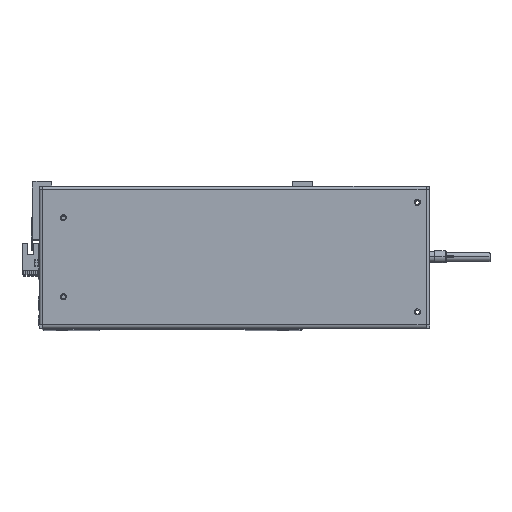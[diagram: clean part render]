
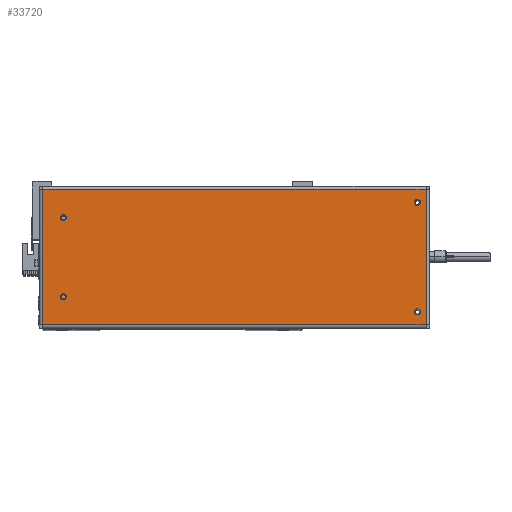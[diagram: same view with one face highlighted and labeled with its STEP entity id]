
A CAD part, top view. The second image highlights one B-rep face of the part: STEP entity #33720.
In plain terms, the highlighted planar face has unit normal (0, 0, 1).
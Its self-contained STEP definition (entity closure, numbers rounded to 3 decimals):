
#45 = ORIENTED_EDGE ( 'NONE', *, *, #15626, .F. ) ;
#90 = CIRCLE ( 'NONE', #18276, 2.5 ) ;
#709 = LINE ( 'NONE', #8612, #30052 ) ;
#1091 = VERTEX_POINT ( 'NONE', #19613 ) ;
#1104 = DIRECTION ( 'NONE',  ( 1., 0., 0. ) ) ;
#1234 = PLANE ( 'NONE',  #14177 ) ;
#1342 = VERTEX_POINT ( 'NONE', #16457 ) ;
#1801 = DIRECTION ( 'NONE',  ( 0., 0., 1. ) ) ;
#2739 = EDGE_CURVE ( 'NONE', #33593, #29856, #10205, .T. ) ;
#2970 = DIRECTION ( 'NONE',  ( 1., 0., 0. ) ) ;
#3071 = ORIENTED_EDGE ( 'NONE', *, *, #2739, .F. ) ;
#3098 = CARTESIAN_POINT ( 'NONE',  ( -140.5, 32.5, 0. ) ) ;
#3504 = CARTESIAN_POINT ( 'NONE',  ( 150.5, -45., 0. ) ) ;
#3922 = CARTESIAN_POINT ( 'NONE',  ( -138., 32.5, 0. ) ) ;
#4596 = DIRECTION ( 'NONE',  ( 1., 0., 0. ) ) ;
#4606 = ORIENTED_EDGE ( 'NONE', *, *, #12159, .F. ) ;
#4715 = EDGE_CURVE ( 'NONE', #36137, #30108, #33577, .T. ) ;
#6249 = CARTESIAN_POINT ( 'NONE',  ( 153., -45., 0. ) ) ;
#6568 = CIRCLE ( 'NONE', #8094, 2.5 ) ;
#6971 = CIRCLE ( 'NONE', #24839, 2.5 ) ;
#7051 = ORIENTED_EDGE ( 'NONE', *, *, #28737, .F. ) ;
#7952 = FACE_OUTER_BOUND ( 'NONE', #36775, .T. ) ;
#8073 = DIRECTION ( 'NONE',  ( 0., -1., 0. ) ) ;
#8078 = CIRCLE ( 'NONE', #26996, 2.5 ) ;
#8094 = AXIS2_PLACEMENT_3D ( 'NONE', #32176, #26558, #14877 ) ;
#8612 = CARTESIAN_POINT ( 'NONE',  ( 157.7, 55.6, 0. ) ) ;
#8913 = FACE_BOUND ( 'NONE', #25435, .T. ) ;
#9529 = EDGE_CURVE ( 'NONE', #20323, #17191, #709, .T. ) ;
#9746 = CARTESIAN_POINT ( 'NONE',  ( -157.7, -55.6, 0. ) ) ;
#9837 = DIRECTION ( 'NONE',  ( -1., 0., 0. ) ) ;
#10115 = VERTEX_POINT ( 'NONE', #6249 ) ;
#10205 = CIRCLE ( 'NONE', #36804, 2.5 ) ;
#10540 = CIRCLE ( 'NONE', #23793, 2.5 ) ;
#11160 = CIRCLE ( 'NONE', #33468, 2.5 ) ;
#12159 = EDGE_CURVE ( 'NONE', #27642, #19390, #10540, .T. ) ;
#12403 = DIRECTION ( 'NONE',  ( 0., 0., 1. ) ) ;
#13592 = EDGE_CURVE ( 'NONE', #10115, #1091, #8078, .T. ) ;
#13702 = ORIENTED_EDGE ( 'NONE', *, *, #28142, .F. ) ;
#14177 = AXIS2_PLACEMENT_3D ( 'NONE', #18353, #21780, #9837 ) ;
#14623 = ORIENTED_EDGE ( 'NONE', *, *, #4715, .T. ) ;
#14853 = CARTESIAN_POINT ( 'NONE',  ( 153., 45., 0. ) ) ;
#14877 = DIRECTION ( 'NONE',  ( 1., 0., 0. ) ) ;
#15626 = EDGE_CURVE ( 'NONE', #24426, #1342, #6568, .T. ) ;
#15682 = DIRECTION ( 'NONE',  ( 1., 0., 0. ) ) ;
#15814 = FACE_BOUND ( 'NONE', #21845, .T. ) ;
#15937 = DIRECTION ( 'NONE',  ( -1., 0., 0. ) ) ;
#15969 = DIRECTION ( 'NONE',  ( 0., 1., 0. ) ) ;
#16309 = EDGE_LOOP ( 'NONE', ( #17290, #30277 ) ) ;
#16457 = CARTESIAN_POINT ( 'NONE',  ( -143., -32.5, 0. ) ) ;
#16627 = EDGE_CURVE ( 'NONE', #1091, #10115, #90, .T. ) ;
#16736 = VECTOR ( 'NONE', #15969, 1000. ) ;
#17191 = VERTEX_POINT ( 'NONE', #25181 ) ;
#17290 = ORIENTED_EDGE ( 'NONE', *, *, #13592, .F. ) ;
#17673 = FACE_BOUND ( 'NONE', #16309, .T. ) ;
#18276 = AXIS2_PLACEMENT_3D ( 'NONE', #26419, #20540, #26285 ) ;
#18353 = CARTESIAN_POINT ( 'NONE',  ( 157.7, 58.5, 0. ) ) ;
#18460 = CARTESIAN_POINT ( 'NONE',  ( -140.5, -32.5, 0. ) ) ;
#19390 = VERTEX_POINT ( 'NONE', #3922 ) ;
#19515 = CARTESIAN_POINT ( 'NONE',  ( -157.6, 55.6, 0. ) ) ;
#19613 = CARTESIAN_POINT ( 'NONE',  ( 148., -45., 0. ) ) ;
#19696 = DIRECTION ( 'NONE',  ( 1., 0., 0. ) ) ;
#20060 = DIRECTION ( 'NONE',  ( 1., 0., 0. ) ) ;
#20323 = VERTEX_POINT ( 'NONE', #37153 ) ;
#20458 = CARTESIAN_POINT ( 'NONE',  ( 157.6, -55.6, 0. ) ) ;
#20540 = DIRECTION ( 'NONE',  ( 0., 0., 1. ) ) ;
#20567 = DIRECTION ( 'NONE',  ( 0., 0., 1. ) ) ;
#20688 = VECTOR ( 'NONE', #8073, 1000. ) ;
#20857 = LINE ( 'NONE', #33269, #16736 ) ;
#20998 = ORIENTED_EDGE ( 'NONE', *, *, #27416, .F. ) ;
#21780 = DIRECTION ( 'NONE',  ( 0., 0., -1. ) ) ;
#21845 = EDGE_LOOP ( 'NONE', ( #3071, #20998 ) ) ;
#22718 = CARTESIAN_POINT ( 'NONE',  ( 150.5, 45., 0. ) ) ;
#23793 = AXIS2_PLACEMENT_3D ( 'NONE', #3098, #20567, #2970 ) ;
#24044 = DIRECTION ( 'NONE',  ( 0., 0., 1. ) ) ;
#24426 = VERTEX_POINT ( 'NONE', #25959 ) ;
#24540 = ORIENTED_EDGE ( 'NONE', *, *, #9529, .T. ) ;
#24727 = EDGE_CURVE ( 'NONE', #17191, #36137, #32132, .T. ) ;
#24817 = VECTOR ( 'NONE', #15682, 1000. ) ;
#24839 = AXIS2_PLACEMENT_3D ( 'NONE', #18460, #12403, #1104 ) ;
#24851 = CARTESIAN_POINT ( 'NONE',  ( -143., 32.5, 0. ) ) ;
#24920 = CARTESIAN_POINT ( 'NONE',  ( 148., 45., 0. ) ) ;
#25181 = CARTESIAN_POINT ( 'NONE',  ( -157.6, 55.6, 0. ) ) ;
#25435 = EDGE_LOOP ( 'NONE', ( #45, #13702 ) ) ;
#25878 = AXIS2_PLACEMENT_3D ( 'NONE', #27978, #1801, #4596 ) ;
#25959 = CARTESIAN_POINT ( 'NONE',  ( -138., -32.5, 0. ) ) ;
#26285 = DIRECTION ( 'NONE',  ( 1., 0., 0. ) ) ;
#26419 = CARTESIAN_POINT ( 'NONE',  ( 150.5, -45., 0. ) ) ;
#26558 = DIRECTION ( 'NONE',  ( 0., 0., 1. ) ) ;
#26991 = DIRECTION ( 'NONE',  ( 1., 0., 0. ) ) ;
#26996 = AXIS2_PLACEMENT_3D ( 'NONE', #3504, #24044, #26991 ) ;
#27114 = ORIENTED_EDGE ( 'NONE', *, *, #27150, .T. ) ;
#27150 = EDGE_CURVE ( 'NONE', #30108, #20323, #20857, .T. ) ;
#27416 = EDGE_CURVE ( 'NONE', #29856, #33593, #11160, .T. ) ;
#27642 = VERTEX_POINT ( 'NONE', #24851 ) ;
#27978 = CARTESIAN_POINT ( 'NONE',  ( -140.5, 32.5, 0. ) ) ;
#28142 = EDGE_CURVE ( 'NONE', #1342, #24426, #6971, .T. ) ;
#28737 = EDGE_CURVE ( 'NONE', #19390, #27642, #34033, .T. ) ;
#28858 = CARTESIAN_POINT ( 'NONE',  ( -157.6, -55.6, 0. ) ) ;
#28891 = EDGE_LOOP ( 'NONE', ( #7051, #4606 ) ) ;
#29856 = VERTEX_POINT ( 'NONE', #24920 ) ;
#30052 = VECTOR ( 'NONE', #15937, 1000. ) ;
#30108 = VERTEX_POINT ( 'NONE', #20458 ) ;
#30277 = ORIENTED_EDGE ( 'NONE', *, *, #16627, .F. ) ;
#31183 = CARTESIAN_POINT ( 'NONE',  ( 150.5, 45., 0. ) ) ;
#31807 = DIRECTION ( 'NONE',  ( 0., 0., 1. ) ) ;
#32132 = LINE ( 'NONE', #19515, #20688 ) ;
#32176 = CARTESIAN_POINT ( 'NONE',  ( -140.5, -32.5, 0. ) ) ;
#33269 = CARTESIAN_POINT ( 'NONE',  ( 157.6, -55.6, 0. ) ) ;
#33468 = AXIS2_PLACEMENT_3D ( 'NONE', #22718, #31807, #20060 ) ;
#33577 = LINE ( 'NONE', #9746, #24817 ) ;
#33593 = VERTEX_POINT ( 'NONE', #14853 ) ;
#33720 = ADVANCED_FACE ( 'NONE', ( #8913, #37851, #17673, #15814, #7952 ), #1234, .F. ) ;
#34033 = CIRCLE ( 'NONE', #25878, 2.5 ) ;
#35842 = ORIENTED_EDGE ( 'NONE', *, *, #24727, .T. ) ;
#36137 = VERTEX_POINT ( 'NONE', #28858 ) ;
#36775 = EDGE_LOOP ( 'NONE', ( #35842, #14623, #27114, #24540 ) ) ;
#36804 = AXIS2_PLACEMENT_3D ( 'NONE', #31183, #37267, #19696 ) ;
#37153 = CARTESIAN_POINT ( 'NONE',  ( 157.6, 55.6, 0. ) ) ;
#37267 = DIRECTION ( 'NONE',  ( 0., 0., 1. ) ) ;
#37851 = FACE_BOUND ( 'NONE', #28891, .T. ) ;
